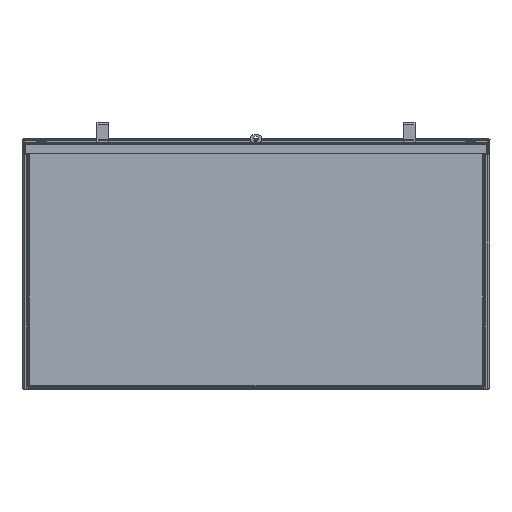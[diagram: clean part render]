
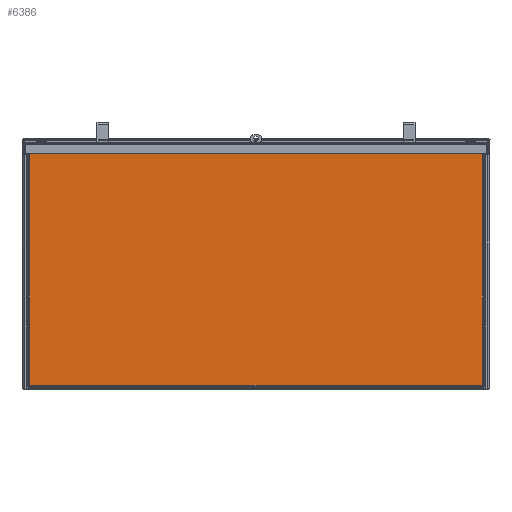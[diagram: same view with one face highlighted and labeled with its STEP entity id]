
A CAD part, front view. The second image highlights one B-rep face of the part: STEP entity #6386.
In plain terms, the highlighted free-form (B-spline) face has degree [1, 1] with [2, 2] control points.
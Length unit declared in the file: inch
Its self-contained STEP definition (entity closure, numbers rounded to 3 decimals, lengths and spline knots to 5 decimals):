
#5223=CARTESIAN_POINT('V66',(0.445,-0.055,
   15.725));
#5224=VERTEX_POINT('V66',#5223);
#5225=CARTESIAN_POINT('V91',(0.445,-0.055,
   15.765));
#5226=VERTEX_POINT('V91',#5225);
#5227=CARTESIAN_POINT('E111',(0.445,-0.055,
   15.725));
#5228=CARTESIAN_POINT('E111',(0.445,-0.055,
   15.765));
#5229=QUASI_UNIFORM_CURVE('E111',1,(#5227,#5228),.POLYLINE_FORM.,.F.,
   .U.);
#5230=EDGE_CURVE('E111',#5224,#5226,#5229,.T.);
#5371=CARTESIAN_POINT('V51',(0.06,-0.055,
   0.06));
#5372=VERTEX_POINT('V51',#5371);
#5386=CARTESIAN_POINT('V59',(0.06,-0.055,
   15.765));
#5387=VERTEX_POINT('V59',#5386);
#5388=CARTESIAN_POINT('E73',(0.06,-0.055,
   0.06));
#5389=CARTESIAN_POINT('E73',(0.06,-0.055,
   15.765));
#5390=QUASI_UNIFORM_CURVE('E73',1,(#5388,#5389),.POLYLINE_FORM.,.F.,
   .U.);
#5391=EDGE_CURVE('E73',#5372,#5387,#5390,.T.);
#5557=CARTESIAN_POINT('V92',(29.205,-0.055,
   15.765));
#5558=VERTEX_POINT('V92',#5557);
#5566=CARTESIAN_POINT('V67',(29.205,-0.055,
   15.725));
#5567=VERTEX_POINT('V67',#5566);
#5581=CARTESIAN_POINT('E114',(29.205,-0.055,
   15.765));
#5582=CARTESIAN_POINT('E114',(29.205,-0.055,
   15.725));
#5583=QUASI_UNIFORM_CURVE('E114',1,(#5581,#5582),.POLYLINE_FORM.,.F.,
   .U.);
#5584=EDGE_CURVE('E114',#5558,#5567,#5583,.T.);
#5602=CARTESIAN_POINT('V57',(29.59,-0.055,
   15.765));
#5603=VERTEX_POINT('V57',#5602);
#5604=CARTESIAN_POINT('E113',(29.59,-0.055,
   15.765));
#5605=CARTESIAN_POINT('E113',(29.205,-0.055,
   15.765));
#5606=QUASI_UNIFORM_CURVE('E113',1,(#5604,#5605),.POLYLINE_FORM.,.F.,
   .U.);
#5607=EDGE_CURVE('E113',#5603,#5558,#5606,.T.);
#5744=CARTESIAN_POINT('V50',(29.59,-0.055,
   0.06));
#5745=VERTEX_POINT('V50',#5744);
#5746=CARTESIAN_POINT('E70',(29.59,-0.055,
   15.765));
#5747=CARTESIAN_POINT('E70',(29.59,-0.055,
   0.06));
#5748=QUASI_UNIFORM_CURVE('E70',1,(#5746,#5747),.POLYLINE_FORM.,.F.,
   .U.);
#5749=EDGE_CURVE('E70',#5603,#5745,#5748,.T.);
#5826=CARTESIAN_POINT('E63',(29.59,-0.055,
   0.06));
#5827=CARTESIAN_POINT('E63',(0.06,-0.055,
   0.06));
#5828=QUASI_UNIFORM_CURVE('E63',1,(#5826,#5827),.POLYLINE_FORM.,.F.,
   .U.);
#5829=EDGE_CURVE('E63',#5745,#5372,#5828,.T.);
#6127=CARTESIAN_POINT('E112',(0.445,-0.055,
   15.765));
#6128=CARTESIAN_POINT('E112',(0.06,-0.055,
   15.765));
#6129=QUASI_UNIFORM_CURVE('E112',1,(#6127,#6128),.POLYLINE_FORM.,.F.,
   .U.);
#6130=EDGE_CURVE('E112',#5226,#5387,#6129,.T.);
#6321=CARTESIAN_POINT('V65',(14.372,-0.055,
   15.725));
#6322=VERTEX_POINT('V65',#6321);
#6323=CARTESIAN_POINT('E80',(14.372,-0.055,
   15.725));
#6324=CARTESIAN_POINT('E80',(0.445,-0.055,
   15.725));
#6325=QUASI_UNIFORM_CURVE('E80',1,(#6323,#6324),.POLYLINE_FORM.,.F.,
   .U.);
#6326=EDGE_CURVE('E80',#6322,#5224,#6325,.T.);
#6345=CARTESIAN_POINT('F29',(29.59,-0.055,
   0.06));
#6346=CARTESIAN_POINT('F29',(29.59,-0.055,
   15.765));
#6347=CARTESIAN_POINT('F29',(0.06,-0.055,
   0.06));
#6348=CARTESIAN_POINT('F29',(0.06,-0.055,
   15.765));
#6349=B_SPLINE_SURFACE_WITH_KNOTS('F29',1,1,((#6345,#6347),(#6346,
   #6348)),.PLANE_SURF.,.F.,.F.,.U.,(2,2),(2,2),(
   0.00008,0.99992),(0.00008,
   1.88009),.UNSPECIFIED.);
#6350=CARTESIAN_POINT('V89',(15.278,-0.055,
   15.724));
#6351=VERTEX_POINT('V89',#6350);
#6352=CARTESIAN_POINT('V90',(14.372,-0.055,
   15.724));
#6353=VERTEX_POINT('V90',#6352);
#6354=CARTESIAN_POINT('E109',(15.278,-0.055,
   15.724));
#6355=CARTESIAN_POINT('E109',(14.372,-0.055,
   15.724));
#6356=QUASI_UNIFORM_CURVE('E109',1,(#6354,#6355),.POLYLINE_FORM.,.F.,
   .U.);
#6357=EDGE_CURVE('E109',#6351,#6353,#6356,.T.);
#6358=ORIENTED_EDGE('E109',*,*,#6357,.T.);
#6359=CARTESIAN_POINT('E110',(14.372,-0.055,
   15.724));
#6360=CARTESIAN_POINT('E110',(14.372,-0.055,
   15.725));
#6361=QUASI_UNIFORM_CURVE('E110',1,(#6359,#6360),.POLYLINE_FORM.,.F.,
   .U.);
#6362=EDGE_CURVE('E110',#6353,#6322,#6361,.T.);
#6363=ORIENTED_EDGE('E110',*,*,#6362,.T.);
#6364=ORIENTED_EDGE('E80',*,*,#6326,.T.);
#6365=ORIENTED_EDGE('E111',*,*,#5230,.T.);
#6366=ORIENTED_EDGE('E112',*,*,#6130,.T.);
#6367=ORIENTED_EDGE('E73',*,*,#5391,.F.);
#6368=ORIENTED_EDGE('E63',*,*,#5829,.F.);
#6369=ORIENTED_EDGE('E70',*,*,#5749,.F.);
#6370=ORIENTED_EDGE('E113',*,*,#5607,.T.);
#6371=ORIENTED_EDGE('F62',*,*,#5584,.T.);
#6372=CARTESIAN_POINT('V68',(15.278,-0.055,
   15.725));
#6373=VERTEX_POINT('V68',#6372);
#6374=CARTESIAN_POINT('E82',(29.205,-0.055,
   15.725));
#6375=CARTESIAN_POINT('E82',(15.278,-0.055,
   15.725));
#6376=QUASI_UNIFORM_CURVE('E82',1,(#6374,#6375),.POLYLINE_FORM.,.F.,
   .U.);
#6377=EDGE_CURVE('E82',#5567,#6373,#6376,.T.);
#6378=ORIENTED_EDGE('E82',*,*,#6377,.T.);
#6379=CARTESIAN_POINT('E115',(15.278,-0.055,
   15.725));
#6380=CARTESIAN_POINT('E115',(15.278,-0.055,
   15.724));
#6381=QUASI_UNIFORM_CURVE('E115',1,(#6379,#6380),.POLYLINE_FORM.,.F.,
   .U.);
#6382=EDGE_CURVE('E115',#6373,#6351,#6381,.T.);
#6383=ORIENTED_EDGE('E115',*,*,#6382,.T.);
#6384=EDGE_LOOP('F29',(#6358,#6363,#6364,#6365,#6366,#6367,#6368,
   #6369,#6370,#6371,#6378,#6383));
#6385=FACE_OUTER_BOUND('F29',#6384,.T.);
#6386=ADVANCED_FACE('F29',(#6385),#6349,.T.);
